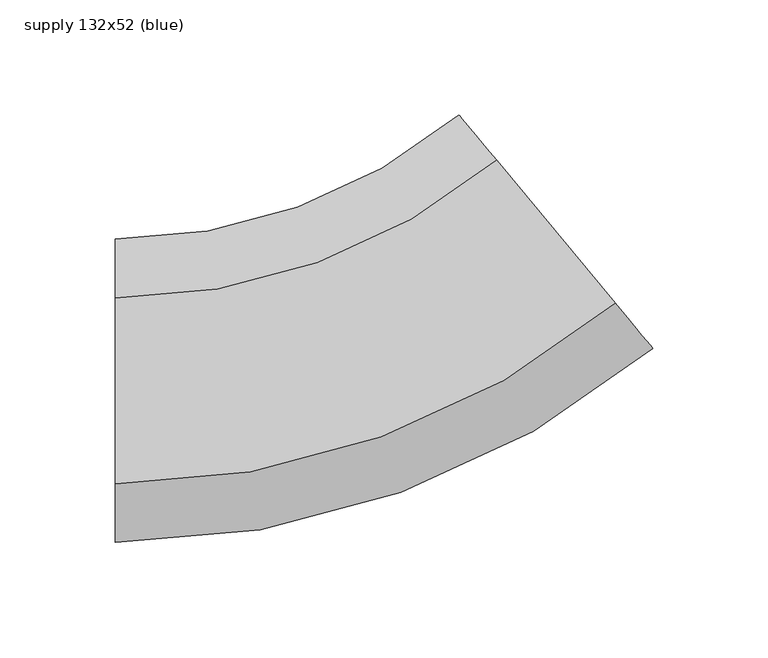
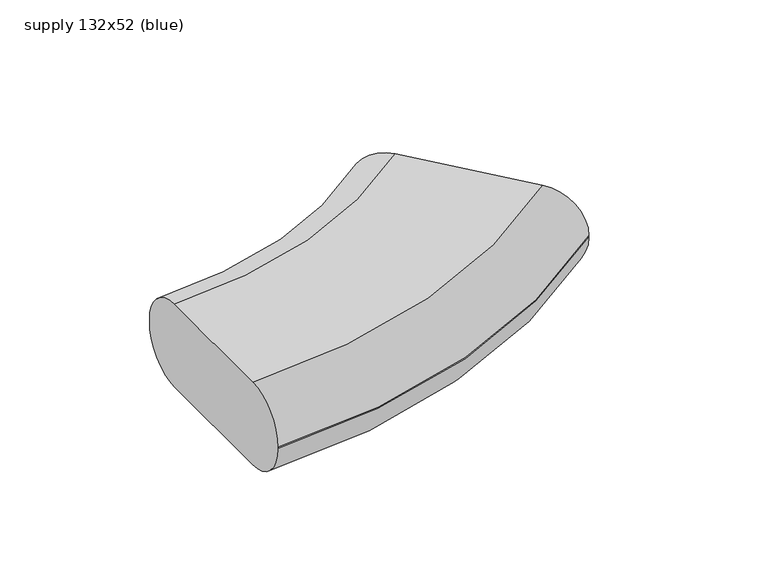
"""IFC4 building model written with IfcOpenShell, lengths in millimetres: duct segment geometry, NLRS_57_DUF_UN_Hybalans flexbend oval_M&G : supply 132x52 (blue)."""

from ifc_helpers import new_model, si_unit, point, frame, origin, place, context, project, spatial, polyline, circle_curve, ellipse_curve, trimmed, source, transform, mapped, element, save
from ifc_brep_helpers import plane_surface, cylinder_surface, revolved_surface, advanced_brep


def supply_132x52_blue_f4b112b8(model_context):
    return source(origin(), model_context, "Body", "AdvancedBrep", [
        advanced_brep(
        [(-108.2777572, -40.4, 26.0), (-108.2777572, 40.4, 26.0), (-108.2777572, 66.0, 0.4), (-108.2777572, 66.0, -0.4), (-108.2777572, 40.4, -26.0), (-108.2777572, -40.4, -26.0), (-108.2777572, -66.0, -0.4), (-108.2777572, -66.0, 0.4), (109.1206279, 38.0646986, 26.0), (125.4702127, 18.3656865, 0.4), (125.4702127, 18.3656865, -0.4), (109.1206279, 38.0646986, -26.0), (57.5172509, 100.2397055, -26.0), (41.1676662, 119.9387176, -0.4), (41.1676662, 119.9387176, 0.4), (57.5172509, 100.2397055, 26.0)],
        [
            (0, 1),
            (1, 2, circle_curve(frame((-108.2777572, 40.4, 0.4), z_axis=(-1.0, 0.0, 0.0), x_axis=(0.0, 1.0, 0.0)), 25.6)),
            (2, 3),
            (3, 4, circle_curve(frame((-108.2777572, 40.4, -0.4), z_axis=(-1.0, 0.0, 0.0), x_axis=(0.0, 1.0, 0.0)), 25.6)),
            (4, 5),
            (5, 6, circle_curve(frame((-108.2777572, -40.4, -0.4), z_axis=(-1.0, 0.0, 0.0), x_axis=(0.0, 1.0, 0.0)), 25.6)),
            (6, 7),
            (7, 0, circle_curve(frame((-108.2777572, -40.4, 0.4), z_axis=(-1.0, 0.0, 0.0), x_axis=(0.0, 1.0, 0.0)), 25.6)),
            (8, 9, circle_curve(frame((109.1206279, 38.0646986, 0.4), z_axis=(0.7694926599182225, 0.6386556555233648, 0.0), x_axis=(-0.6386556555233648, 0.7694926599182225, 0.0)), 25.6)),
            (9, 10),
            (10, 11, circle_curve(frame((109.1206279, 38.0646986, -0.4), z_axis=(0.7694926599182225, 0.6386556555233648, 0.0), x_axis=(-0.6386556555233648, 0.7694926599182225, 0.0)), 25.6)),
            (11, 12),
            (12, 13, circle_curve(frame((57.5172509, 100.2397055, -0.4), z_axis=(0.7694926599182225, 0.6386556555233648, 0.0), x_axis=(-0.6386556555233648, 0.7694926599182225, 0.0)), 25.6)),
            (13, 14),
            (14, 15, circle_curve(frame((57.5172509, 100.2397055, 0.4), z_axis=(0.7694926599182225, 0.6386556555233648, 0.0), x_axis=(-0.6386556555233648, 0.7694926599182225, 0.0)), 25.6)),
            (15, 8),
            (15, 1, circle_curve(frame((-108.2777572, 300.0, 26.0), z_axis=(0.0, 0.0, -1.0), x_axis=(0.0, -1.0, 0.0)), 259.6)),
            (0, 8, circle_curve(frame((-108.2777572, 300.0, 26.0), z_axis=(0.0, 0.0, 1.0), x_axis=(0.0, -1.0, 0.0)), 340.4)),
            (14, 2, circle_curve(frame((-108.2777572, 300.0, 0.4), z_axis=(0.0, 0.0, -1.0), x_axis=(0.0, -1.0, 0.0)), 234.0)),
            (13, 3, circle_curve(frame((-108.2777572, 300.0, -0.4), z_axis=(0.0, 0.0, -1.0), x_axis=(0.0, -1.0, 0.0)), 234.0)),
            (12, 4, circle_curve(frame((-108.2777572, 300.0, -26.0), z_axis=(0.0, 0.0, -1.0), x_axis=(0.0, -1.0, 0.0)), 259.6)),
            (11, 5, circle_curve(frame((-108.2777572, 300.0, -26.0), z_axis=(0.0, 0.0, -1.0), x_axis=(0.0, -1.0, 0.0)), 340.4)),
            (10, 6, circle_curve(frame((-108.2777572, 300.0, -0.4), z_axis=(0.0, 0.0, -1.0), x_axis=(0.0, -1.0, 0.0)), 366.0)),
            (9, 7, circle_curve(frame((-108.2777572, 300.0, 0.4), z_axis=(0.0, 0.0, -1.0), x_axis=(0.0, -1.0, 0.0)), 366.0)),
        ],
        [
            plane_surface(frame((-108.2777572, 0.0, 0.0), z_axis=(-1.0, 0.0, 0.0), x_axis=(0.0, 0.0, 1.0))),
            plane_surface(frame((83.3189394, 69.152202, 0.0), z_axis=(0.7694926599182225, 0.6386556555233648, 0.0), x_axis=(0.0, 0.0, 1.0))),
            plane_surface(frame((-108.2777572, 300.0, 26.0), z_axis=(0.0, 0.0, 1.0), x_axis=(0.0, -1.0, 0.0))),
            revolved_surface(trimmed(ellipse_curve(frame((-108.2777572, 40.4, 0.4), z_axis=(-1.0, 0.0, 0.0), x_axis=(0.0, 1.0, 0.0)), 25.6, 25.6), [point((-108.2777572, 40.4, 26.0))], [point((-108.2777572, 66.0, 0.4))], True, "CARTESIAN"), (-108.2777572, 300.0, 0.0), (0.0, 0.0, 1.0)),
            revolved_surface(polyline([(-108.2777572, 66.0, 0.4), (-108.2777572, 66.0, -0.4)]), (-108.2777572, 300.0, 0.0), (0.0, 0.0, 1.0)),
            revolved_surface(trimmed(ellipse_curve(frame((-108.2777572, 40.4, -0.4), z_axis=(-1.0, 0.0, 0.0), x_axis=(0.0, 1.0, 0.0)), 25.6, 25.6), [point((-108.2777572, 66.0, -0.4))], [point((-108.2777572, 40.4, -26.0))], True, "CARTESIAN"), (-108.2777572, 300.0, 0.0), (0.0, 0.0, 1.0)),
            plane_surface(frame((-108.2777572, 300.0, -26.0), z_axis=(0.0, 0.0, -1.0), x_axis=(0.0, -1.0, 0.0))),
            revolved_surface(trimmed(ellipse_curve(frame((-108.2777572, -40.4, -0.4), z_axis=(-1.0, 0.0, 0.0), x_axis=(0.0, 1.0, 0.0)), 25.6, 25.6), [point((-108.2777572, -40.4, -26.0))], [point((-108.2777572, -66.0, -0.4))], True, "CARTESIAN"), (-108.2777572, 300.0, 0.0), (0.0, 0.0, 1.0)),
            cylinder_surface(frame((-108.2777572, 300.0, 0.0), z_axis=(0.0, 0.0, 1.0), x_axis=(0.0, -1.0, 0.0)), 366.0),
            revolved_surface(trimmed(ellipse_curve(frame((-108.2777572, -40.4, 0.4), z_axis=(-1.0, 0.0, 0.0), x_axis=(0.0, 1.0, 0.0)), 25.6, 25.6), [point((-108.2777572, -66.0, 0.4))], [point((-108.2777572, -40.4, 26.0))], True, "CARTESIAN"), (-108.2777572, 300.0, 0.0), (0.0, 0.0, 1.0)),
        ],
        [
            (0, [[1, 2, 3, 4, 5, 6, 7, 8]]),
            (1, [[9, 10, 11, 12, 13, 14, 15, 16]]),
            (2, [[17, -1, 18, -16]]),
            (3, [[19, -2, -17, -15]]),
            (4, [[20, -3, -19, -14]]),
            (5, [[21, -4, -20, -13]]),
            (6, [[22, -5, -21, -12]]),
            (7, [[23, -6, -22, -11]]),
            (8, [[24, -7, -23, -10]]),
            (9, [[-18, -8, -24, -9]]),
        ],
    ),
    ])


if __name__ == "__main__":
    model = new_model("IFC4")
    model_context = context("Model", 3, world=origin())
    ifc_project = project(units=[si_unit("LENGTHUNIT", "METRE", prefix="MILLI")], contexts=[model_context])
    site = spatial("IfcSite", under=ifc_project)
    building = spatial("IfcBuilding", under=site)
    placement = place(None, origin())
    supply_132x52_blue_shape = supply_132x52_blue_f4b112b8(model_context)
    element("IfcDuctSegment", 1, ObjectType="NLRS_57_DUF_UN_Hybalans flexbend oval_M&G : supply 132x52 (blue)", at=placement, inside=building, context=model_context, shape_type="MappedRepresentation", body=[
        mapped(supply_132x52_blue_shape, transform((0.0, 0.0, 0.0), x_axis=(1.0, 0.0, 0.0), y_axis=(0.0, 1.0, 0.0), z_axis=(0.0, 0.0, 1.0))),
    ])
    save(model, "model.ifc")
